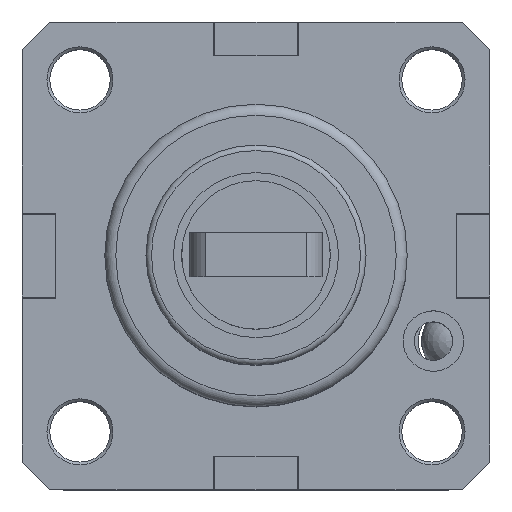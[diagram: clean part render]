
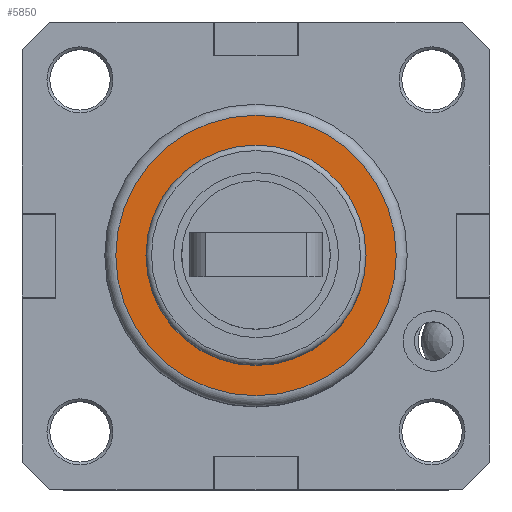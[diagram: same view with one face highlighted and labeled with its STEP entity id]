
A CAD part, top view. The second image highlights one B-rep face of the part: STEP entity #5850.
In plain terms, the highlighted planar face has unit normal (0, 0, 1).
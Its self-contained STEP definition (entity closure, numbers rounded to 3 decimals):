
#210=FACE_BOUND('',#2166,.T.);
#1507=PLANE('',#6427);
#1791=FACE_OUTER_BOUND('',#2165,.T.);
#2165=EDGE_LOOP('',(#5009));
#2166=EDGE_LOOP('',(#5010));
#2484=CIRCLE('',#6425,25.5);
#2486=CIRCLE('',#6428,20.);
#2975=VERTEX_POINT('',#9845);
#2976=VERTEX_POINT('',#9849);
#3693=EDGE_CURVE('',#2975,#2975,#2484,.T.);
#3695=EDGE_CURVE('',#2976,#2976,#2486,.T.);
#5009=ORIENTED_EDGE('',*,*,#3693,.T.);
#5010=ORIENTED_EDGE('',*,*,#3695,.F.);
#5850=ADVANCED_FACE('',(#1791,#210),#1507,.T.);
#6425=AXIS2_PLACEMENT_3D('',#9846,#7697,#7698);
#6427=AXIS2_PLACEMENT_3D('',#9848,#7701,#7702);
#6428=AXIS2_PLACEMENT_3D('',#9850,#7703,#7704);
#7697=DIRECTION('center_axis',(0.,0.,1.));
#7698=DIRECTION('ref_axis',(1.,0.,0.));
#7701=DIRECTION('center_axis',(0.,0.,1.));
#7702=DIRECTION('ref_axis',(1.,0.,0.));
#7703=DIRECTION('center_axis',(0.,0.,1.));
#7704=DIRECTION('ref_axis',(1.,0.,0.));
#9845=CARTESIAN_POINT('',(-25.5,0.,65.5));
#9846=CARTESIAN_POINT('Origin',(0.,0.,65.5));
#9848=CARTESIAN_POINT('Origin',(0.,20.,65.5));
#9849=CARTESIAN_POINT('',(0.,-20.,65.5));
#9850=CARTESIAN_POINT('Origin',(0.,0.,65.5));
